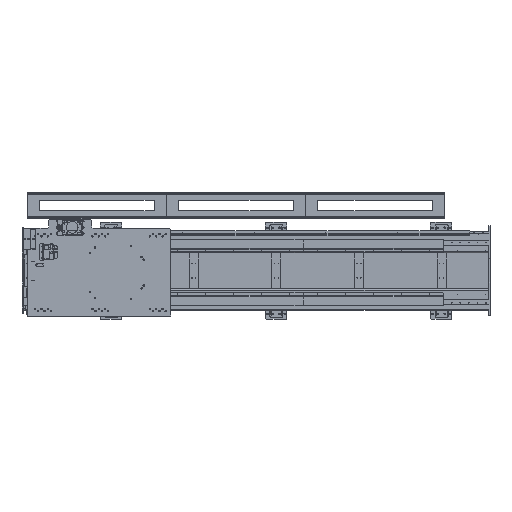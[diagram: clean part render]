
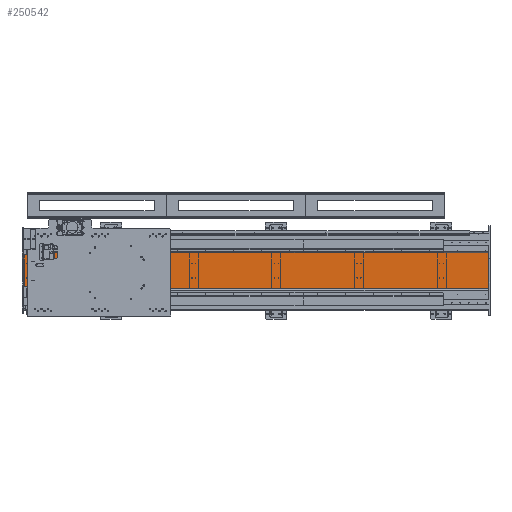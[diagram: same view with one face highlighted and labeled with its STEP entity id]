
A CAD part, top view. The second image highlights one B-rep face of the part: STEP entity #250542.
In plain terms, the highlighted planar face has unit normal (0, 0, 1) as drawn and (0, 1, 0) by its records, which use the part's own axes.
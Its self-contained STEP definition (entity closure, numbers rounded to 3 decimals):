
#6278 = CARTESIAN_POINT ( 'NONE',  ( 0., 2., 0. ) ) ;
#20518 = ORIENTED_EDGE ( 'NONE', *, *, #164318, .T. ) ;
#21805 = CARTESIAN_POINT ( 'NONE',  ( 0., 2., 6470. ) ) ;
#22831 = DIRECTION ( 'NONE',  ( 0., 0., -1. ) ) ;
#24346 = DIRECTION ( 'NONE',  ( -1., 0., 0. ) ) ;
#29426 = CARTESIAN_POINT ( 'NONE',  ( 0., 2., 0. ) ) ;
#31488 = DIRECTION ( 'NONE',  ( 0., 0., 1. ) ) ;
#35193 = ORIENTED_EDGE ( 'NONE', *, *, #53275, .T. ) ;
#52071 = VERTEX_POINT ( 'NONE', #131835 ) ;
#53275 = EDGE_CURVE ( 'NONE', #284601, #52071, #151457, .T. ) ;
#73059 = LINE ( 'NONE', #76986, #242656 ) ;
#76986 = CARTESIAN_POINT ( 'NONE',  ( 0., 2., 0. ) ) ;
#84319 = EDGE_CURVE ( 'NONE', #308555, #141172, #229231, .T. ) ;
#92510 = VECTOR ( 'NONE', #260906, 1000. ) ;
#95463 = CARTESIAN_POINT ( 'NONE',  ( 500., 2., 0. ) ) ;
#122786 = LINE ( 'NONE', #21805, #92510 ) ;
#127299 = PLANE ( 'NONE',  #158774 ) ;
#129373 = CARTESIAN_POINT ( 'NONE',  ( 0., 2., 0. ) ) ;
#131835 = CARTESIAN_POINT ( 'NONE',  ( 0., 2., 6470. ) ) ;
#141172 = VERTEX_POINT ( 'NONE', #294488 ) ;
#150076 = CARTESIAN_POINT ( 'NONE',  ( 500., 2., 6470. ) ) ;
#151457 = LINE ( 'NONE', #29426, #192868 ) ;
#152989 = FACE_OUTER_BOUND ( 'NONE', #195730, .T. ) ;
#155695 = DIRECTION ( 'NONE',  ( 0., 0., 1. ) ) ;
#158774 = AXIS2_PLACEMENT_3D ( 'NONE', #129373, #181965, #155695 ) ;
#164318 = EDGE_CURVE ( 'NONE', #141172, #284601, #73059, .T. ) ;
#181965 = DIRECTION ( 'NONE',  ( 0., 1., 0. ) ) ;
#192868 = VECTOR ( 'NONE', #31488, 1000. ) ;
#195730 = EDGE_LOOP ( 'NONE', ( #35193, #224885, #260583, #20518 ) ) ;
#202851 = VECTOR ( 'NONE', #22831, 1000. ) ;
#224885 = ORIENTED_EDGE ( 'NONE', *, *, #251534, .T. ) ;
#229231 = LINE ( 'NONE', #95463, #202851 ) ;
#242656 = VECTOR ( 'NONE', #24346, 1000. ) ;
#250542 = ADVANCED_FACE ( 'NONE', ( #152989 ), #127299, .T. ) ;
#251534 = EDGE_CURVE ( 'NONE', #52071, #308555, #122786, .T. ) ;
#260583 = ORIENTED_EDGE ( 'NONE', *, *, #84319, .T. ) ;
#260906 = DIRECTION ( 'NONE',  ( 1., 0., 0. ) ) ;
#284601 = VERTEX_POINT ( 'NONE', #6278 ) ;
#294488 = CARTESIAN_POINT ( 'NONE',  ( 500., 2., 0. ) ) ;
#308555 = VERTEX_POINT ( 'NONE', #150076 ) ;
